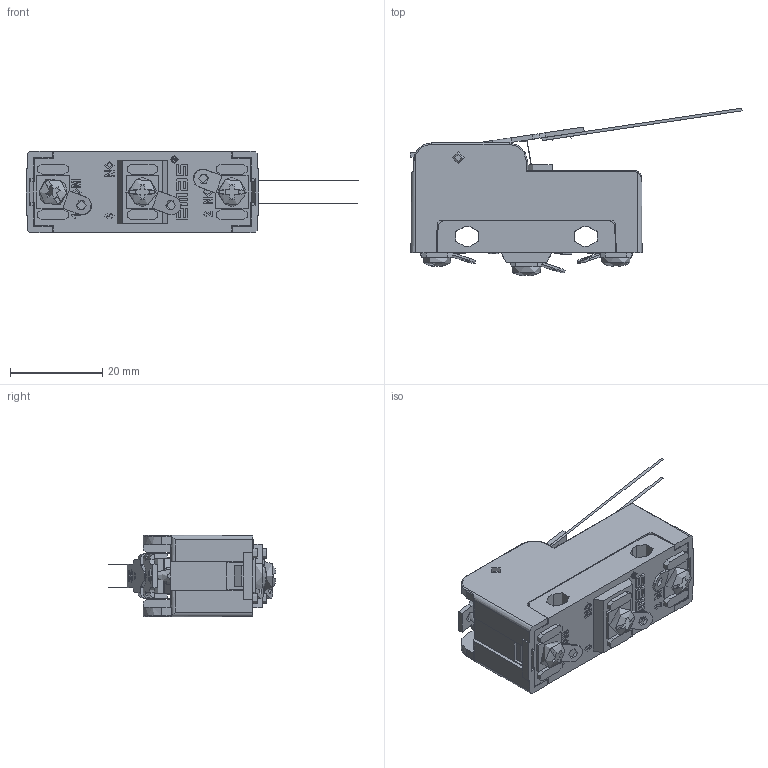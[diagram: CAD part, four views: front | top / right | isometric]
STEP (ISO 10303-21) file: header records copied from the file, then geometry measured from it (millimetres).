
FILE_DESCRIPTION((''),'2; 1');
FILE_NAME('','2026-03-27T16:29:02',(''),(''),'CST STEP Exporter V1.0','Unknown','');
FILE_SCHEMA(('CONFIG_CONTROL_DESIGN'));
Length unit declared in the file: metre
Assembly tree (17 placements, depth 2):
  (unnamed)
    (unnamed)
    (unnamed)
    (unnamed)
    (unnamed)
    (unnamed)
    (unnamed)
    (unnamed)
    (unnamed)
    (unnamed)
    (unnamed)
    (unnamed)
    (unnamed)
    (unnamed)
    (unnamed)
    (unnamed)
    (unnamed)
    (unnamed)
Bounding box: 71.99 x 36.37 x 17.7 mm (x, y, z)
Topology: 0 solids, 63 shells, 537 faces, 1685 edges, 1176 vertices
Faces by surface type: plane 344, cylinder 130, extrusion 38, torus 12, cone 7, sphere 4, bspline 2
Full cylindrical faces by diameter (mm): 1.4 x1, 1.8 x2, 2.2 x3, 2.5 x1, 2.6 x3, 3 x1, 3.9 x1, 7 x1, 8.2 x1
Entity records: 26144 total; most frequent: CARTESIAN_POINT 6643, ORIENTED_EDGE 3007, DIRECTION 2869, EDGE_CURVE 1720, VERTEX_POINT 1207, VECTOR 1113, LINE 1075, AXIS2_PLACEMENT_3D 878
